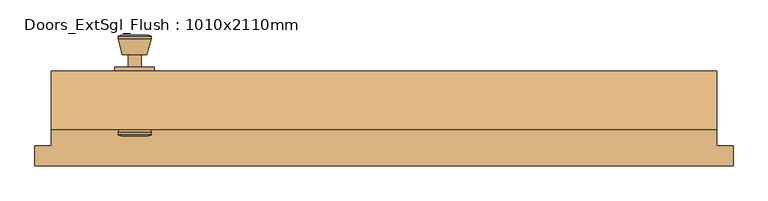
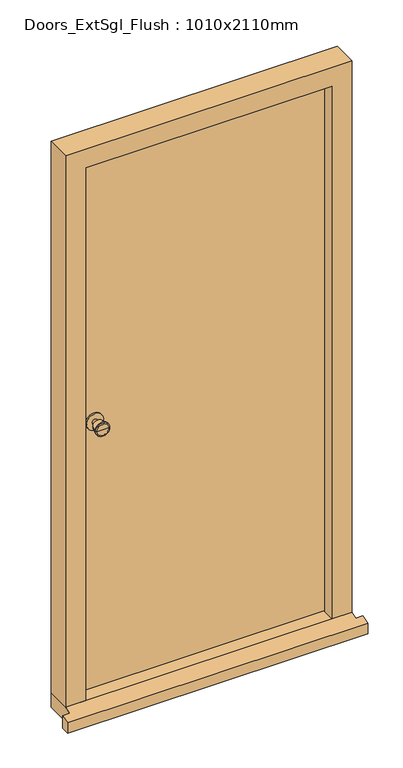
"""IFC4 building model written with IfcOpenShell, lengths in millimetres: door geometry, Doors_ExtSgl_Flush : 1010x2110mm."""

from ifc_helpers import new_model, si_unit, point, frame, frame_2d, origin, place, context, project, spatial, polyline, circle_curve, trimmed, segment, composite_curve, outline, extrude, faceted_brep, source, transform, mapped, element, save
from ifc_brep_helpers import plane_surface, cylinder_surface, revolved_surface, advanced_brep


def doors_extsgl_flush_1010x2110mm_caf77e55(model_context):
    return source(origin(), model_context, "Body", "SolidModel", [
        advanced_brep(
        [(-378.5, -81.0, 1050.0), (-388.5, -81.0, 1050.0), (-368.5, -81.0, 1050.0), (-358.0241324, -32.0, 1050.0), (-398.9758676, -32.0, 1050.0), (-378.5, -32.0, 1050.0), (-353.5, -33.8278681, 1050.0), (-403.5, -33.8278681, 1050.0), (-353.5, -37.2915463, 1050.0), (-403.5, -37.2915463, 1050.0), (-359.863764, -62.0, 1050.0), (-397.136236, -62.0, 1050.0), (-368.5, -62.0, 1050.0), (-388.5, -62.0, 1050.0)],
        [
            (0, 1),
            (1, 2, circle_curve(frame((-378.5, -81.0, 1050.0), z_axis=(0.0, -1.0, 0.0), x_axis=(-1.0, 0.0, 0.0)), 10.0)),
            (2, 0),
            (2, 1, circle_curve(frame((-378.5, -81.0, 1050.0), z_axis=(0.0, -1.0, 0.0), x_axis=(-1.0, 0.0, 0.0)), 10.0)),
            (3, 4, circle_curve(frame((-378.5, -32.0, 1050.0), z_axis=(0.0, 1.0, 0.0), x_axis=(-1.0, 0.0, 0.0)), 20.4758676)),
            (4, 5),
            (5, 3),
            (4, 3, circle_curve(frame((-378.5, -32.0, 1050.0), z_axis=(0.0, 1.0, 0.0), x_axis=(-1.0, 0.0, 0.0)), 20.4758676)),
            (6, 7, circle_curve(frame((-378.5, -33.8278681, 1050.0), z_axis=(0.0, 1.0, 0.0), x_axis=(-1.0, 0.0, 0.0)), 25.0)),
            (7, 4),
            (3, 6),
            (7, 6, circle_curve(frame((-378.5, -33.8278681, 1050.0), z_axis=(0.0, 1.0, 0.0), x_axis=(-1.0, 0.0, 0.0)), 25.0)),
            (8, 9, circle_curve(frame((-378.5, -37.2915463, 1050.0), z_axis=(0.0, 1.0, 0.0), x_axis=(-1.0, 0.0, 0.0)), 25.0)),
            (9, 7),
            (6, 8),
            (9, 8, circle_curve(frame((-378.5, -37.2915463, 1050.0), z_axis=(0.0, 1.0, 0.0), x_axis=(-1.0, 0.0, 0.0)), 25.0)),
            (10, 11, circle_curve(frame((-378.5, -62.0, 1050.0), z_axis=(0.0, 1.0, 0.0), x_axis=(-1.0, 0.0, 0.0)), 18.636236)),
            (11, 9),
            (8, 10),
            (11, 10, circle_curve(frame((-378.5, -62.0, 1050.0), z_axis=(0.0, 1.0, 0.0), x_axis=(-1.0, 0.0, 0.0)), 18.636236)),
            (12, 13, circle_curve(frame((-378.5, -62.0, 1050.0), z_axis=(0.0, 1.0, 0.0), x_axis=(-1.0, 0.0, 0.0)), 10.0)),
            (13, 11),
            (10, 12),
            (13, 12, circle_curve(frame((-378.5, -62.0, 1050.0), z_axis=(0.0, 1.0, 0.0), x_axis=(-1.0, 0.0, 0.0)), 10.0)),
            (1, 13),
            (12, 2),
        ],
        [
            plane_surface(frame((-378.5, -81.0, 1050.0), z_axis=(0.0, -1.0, 0.0), x_axis=(-1.0, 0.0, 0.0))),
            plane_surface(frame((-378.5, -32.0, 1050.0), z_axis=(0.0, 1.0, 0.0), x_axis=(-1.0, 0.0, 0.0))),
            revolved_surface(polyline([(-398.9758676, -32.0, 1050.0), (-403.5, -33.8278681, 1050.0)]), (-378.5, -81.0, 1050.0), (0.0, -1.0, 0.0)),
            cylinder_surface(frame((-378.5, -81.0, 1050.0), z_axis=(0.0, -1.0, 0.0), x_axis=(-1.0, 0.0, 0.0)), 25.0),
            revolved_surface(polyline([(-403.5, -37.2915463, 1050.0), (-397.136236, -62.0, 1050.0)]), (-378.5, -81.0, 1050.0), (0.0, -1.0, 0.0)),
            plane_surface(frame((-378.5, -62.0, 1050.0), z_axis=(0.0, -1.0, 0.0), x_axis=(-1.0, 0.0, 0.0))),
            cylinder_surface(frame((-378.5, -81.0, 1050.0), z_axis=(0.0, -1.0, 0.0), x_axis=(-1.0, 0.0, 0.0)), 10.0),
        ],
        [
            (0, [[1, 2, 3]]),
            (0, [[-3, 4, -1]]),
            (1, [[5, 6, 7]]),
            (1, [[8, -7, -6]]),
            (2, [[9, 10, -5, 11]]),
            (2, [[12, -11, -8, -10]]),
            (3, [[13, 14, -9, 15]]),
            (3, [[16, -15, -12, -14]]),
            (4, [[17, 18, -13, 19]]),
            (4, [[20, -19, -16, -18]]),
            (5, [[21, 22, -17, 23]]),
            (5, [[24, -23, -20, -22]]),
            (6, [[-2, 25, -21, 26]]),
            (6, [[-4, -26, -24, -25]]),
        ],
    ),
        extrude(outline(composite_curve([segment(trimmed(circle_curve(frame_2d((1050.0, -378.5)), 30.0), [point((1050.0, -408.5))], [point((1050.0, -348.5))], False, "CARTESIAN"), True, "CONTINUOUS"), segment(trimmed(circle_curve(frame_2d((1050.0, -378.5)), 30.0), [point((1050.0, -348.5))], [point((1050.0, -408.5))], False, "CARTESIAN"), True, "CONTINUOUS")], self_intersect=False)), frame((0.0, -87.0, 0.0), z_axis=(0.0, 1.0, 0.0), x_axis=(0.0, 0.0, 1.0)), (0.0, 0.0, 1.0), 6.0),
        advanced_brep(
        [(-378.5, -137.0, 1050.0), (-368.5, -137.0, 1050.0), (-388.5, -137.0, 1050.0), (-358.0241324, -186.0, 1050.0), (-378.5, -186.0, 1050.0), (-398.9758676, -186.0, 1050.0), (-353.5, -184.1721319, 1050.0), (-403.5, -184.1721319, 1050.0), (-353.5, -180.7084537, 1050.0), (-403.5, -180.7084537, 1050.0), (-359.863764, -156.0, 1050.0), (-397.136236, -156.0, 1050.0), (-368.5, -156.0, 1050.0), (-388.5, -156.0, 1050.0)],
        [
            (0, 1),
            (1, 2, circle_curve(frame((-378.5, -137.0, 1050.0), z_axis=(0.0, 1.0, 0.0), x_axis=(-1.0, 0.0, 0.0)), 10.0)),
            (2, 0),
            (2, 1, circle_curve(frame((-378.5, -137.0, 1050.0), z_axis=(0.0, 1.0, 0.0), x_axis=(-1.0, 0.0, 0.0)), 10.0)),
            (3, 4),
            (4, 5),
            (5, 3, circle_curve(frame((-378.5, -186.0, 1050.0), z_axis=(0.0, -1.0, 0.0), x_axis=(-1.0, 0.0, 0.0)), 20.4758676)),
            (3, 5, circle_curve(frame((-378.5, -186.0, 1050.0), z_axis=(0.0, -1.0, 0.0), x_axis=(-1.0, 0.0, 0.0)), 20.4758676)),
            (6, 3),
            (5, 7),
            (7, 6, circle_curve(frame((-378.5, -184.1721319, 1050.0), z_axis=(0.0, -1.0, 0.0), x_axis=(-1.0, 0.0, 0.0)), 25.0)),
            (6, 7, circle_curve(frame((-378.5, -184.1721319, 1050.0), z_axis=(0.0, -1.0, 0.0), x_axis=(-1.0, 0.0, 0.0)), 25.0)),
            (8, 6),
            (7, 9),
            (9, 8, circle_curve(frame((-378.5, -180.7084537, 1050.0), z_axis=(0.0, -1.0, 0.0), x_axis=(-1.0, 0.0, 0.0)), 25.0)),
            (8, 9, circle_curve(frame((-378.5, -180.7084537, 1050.0), z_axis=(0.0, -1.0, 0.0), x_axis=(-1.0, 0.0, 0.0)), 25.0)),
            (10, 8),
            (9, 11),
            (11, 10, circle_curve(frame((-378.5, -156.0, 1050.0), z_axis=(0.0, -1.0, 0.0), x_axis=(-1.0, 0.0, 0.0)), 18.636236)),
            (10, 11, circle_curve(frame((-378.5, -156.0, 1050.0), z_axis=(0.0, -1.0, 0.0), x_axis=(-1.0, 0.0, 0.0)), 18.636236)),
            (12, 10),
            (11, 13),
            (13, 12, circle_curve(frame((-378.5, -156.0, 1050.0), z_axis=(0.0, -1.0, 0.0), x_axis=(-1.0, 0.0, 0.0)), 10.0)),
            (12, 13, circle_curve(frame((-378.5, -156.0, 1050.0), z_axis=(0.0, -1.0, 0.0), x_axis=(-1.0, 0.0, 0.0)), 10.0)),
            (1, 12),
            (13, 2),
        ],
        [
            plane_surface(frame((-378.5, -137.0, 1050.0), z_axis=(0.0, 1.0, 0.0), x_axis=(-1.0, 0.0, 0.0))),
            plane_surface(frame((-378.5, -186.0, 1050.0), z_axis=(0.0, -1.0, 0.0), x_axis=(-1.0, 0.0, 0.0))),
            revolved_surface(polyline([(-398.9758676, -186.0, 1050.0), (-403.5, -184.1721319, 1050.0)]), (-378.5, -137.0, 1050.0), (0.0, 1.0, 0.0)),
            cylinder_surface(frame((-378.5, -137.0, 1050.0), z_axis=(0.0, 1.0, 0.0), x_axis=(-1.0, 0.0, 0.0)), 25.0),
            revolved_surface(polyline([(-403.5, -180.7084537, 1050.0), (-397.136236, -156.0, 1050.0)]), (-378.5, -137.0, 1050.0), (0.0, 1.0, 0.0)),
            plane_surface(frame((-378.5, -156.0, 1050.0), z_axis=(0.0, 1.0, 0.0), x_axis=(-1.0, 0.0, 0.0))),
            cylinder_surface(frame((-378.5, -137.0, 1050.0), z_axis=(0.0, 1.0, 0.0), x_axis=(-1.0, 0.0, 0.0)), 10.0),
        ],
        [
            (0, [[1, 2, 3]]),
            (0, [[-3, 4, -1]]),
            (1, [[5, 6, 7]]),
            (1, [[-6, -5, 8]]),
            (2, [[9, -7, 10, 11]]),
            (2, [[-10, -8, -9, 12]]),
            (3, [[13, -11, 14, 15]]),
            (3, [[-14, -12, -13, 16]]),
            (4, [[17, -15, 18, 19]]),
            (4, [[-18, -16, -17, 20]]),
            (5, [[21, -19, 22, 23]]),
            (5, [[-22, -20, -21, 24]]),
            (6, [[25, -23, 26, -2]]),
            (6, [[-26, -24, -25, -4]]),
        ],
    ),
        extrude(outline(composite_curve([segment(trimmed(circle_curve(frame_2d((1050.0, -378.5)), 30.0), [point((1050.0, -408.5))], [point((1050.0, -348.5))], False, "CARTESIAN"), True, "CONTINUOUS"), segment(trimmed(circle_curve(frame_2d((1050.0, -378.5)), 30.0), [point((1050.0, -348.5))], [point((1050.0, -408.5))], False, "CARTESIAN"), True, "CONTINUOUS")], self_intersect=False)), frame((0.0, -137.0, 0.0), z_axis=(0.0, 1.0, 0.0), x_axis=(0.0, 0.0, 1.0)), (0.0, 0.0, 1.0), 6.0),
        faceted_brep([(434.5, -176.0, 54.5), (434.5, -134.0, 54.5), (456.5, -134.0, 54.5), (456.5, -87.0, 54.5), (505.0, -87.0, 54.5), (505.0, -176.0, 54.5), (505.0, -176.0, 2110.0), (-505.0, -176.0, 2110.0), (-505.0, -176.0, 54.5), (-434.5, -176.0, 54.5), (-434.5, -176.0, 2039.5), (434.5, -176.0, 2039.5), (505.0, -87.0, 2110.0), (456.5, -87.0, 2061.5), (-456.5, -87.0, 2061.5), (-456.5, -87.0, 54.5), (-505.0, -87.0, 54.5), (-505.0, -87.0, 2110.0), (456.5, -134.0, 2061.5), (434.5, -134.0, 2039.5), (-434.5, -134.0, 2039.5), (-434.5, -134.0, 54.5), (-456.5, -134.0, 54.5), (-456.5, -134.0, 2061.5)], [[[0, 1, 2, 3, 4, 5]], [[5, 6, 7, 8, 9, 10, 11, 0]], [[4, 12, 6, 5]], [[3, 13, 14, 15, 16, 17, 12, 4]], [[2, 18, 13, 3]], [[1, 19, 20, 21, 22, 23, 18, 2]], [[0, 11, 19, 1]], [[10, 9, 21, 20]], [[9, 8, 16, 15, 22, 21]], [[17, 16, 8, 7]], [[23, 22, 15, 14]], [[12, 17, 7, 6]], [[18, 23, 14, 13]], [[11, 10, 20, 19]]]),
        faceted_brep([(530.0, -231.0, 0.0), (530.0, -201.0, 0.0), (530.0, -201.0, 47.2703282), (530.0, -231.0, 38.5947221), (-530.0, -231.0, 38.5947221), (-530.0, -201.0, 47.2703282), (-530.0, -201.0, 0.0), (-530.0, -231.0, 0.0), (-505.0, -201.0, 0.0), (-505.0, -87.0, 0.0), (505.0, -87.0, 0.0), (505.0, -201.0, 0.0), (505.0, -201.0, 47.2703282), (505.0, -176.0, 54.5), (-505.0, -176.0, 54.5), (-505.0, -201.0, 47.2703282), (505.0, -87.0, 54.5), (-505.0, -87.0, 54.5)], [[[0, 1, 2, 3]], [[4, 5, 6, 7]], [[7, 6, 8, 9, 10, 11, 1, 0]], [[3, 4, 7, 0]], [[3, 2, 12, 13, 14, 15, 5, 4]], [[14, 13, 16, 17]], [[17, 16, 10, 9]], [[15, 14, 17, 9, 8]], [[8, 6, 5, 15]], [[11, 10, 16, 13, 12]], [[12, 2, 1, 11]]]),
        extrude(outline(polyline([(453.5, -87.0), (453.5, -131.0), (-454.4250294, -131.0), (-454.4250294, -87.0), (453.5, -87.0)])), frame((0.0, 0.0, 58.5), z_axis=(0.0, 0.0, 1.0), x_axis=(1.0, 0.0, 0.0)), (0.0, 0.0, 1.0), 2000.0),
    ])


if __name__ == "__main__":
    model = new_model("IFC4")
    model_context = context("Model", 3, world=origin())
    ifc_project = project(units=[si_unit("LENGTHUNIT", "METRE", prefix="MILLI")], contexts=[model_context])
    site = spatial("IfcSite", under=ifc_project)
    building = spatial("IfcBuilding", under=site)
    placement = place(None, origin())
    doors_extsgl_flush_1010x2110mm_shape = doors_extsgl_flush_1010x2110mm_caf77e55(model_context)
    element("IfcDoor", 1, ObjectType="Doors_ExtSgl_Flush : 1010x2110mm", at=placement, inside=building, context=model_context, shape_type="MappedRepresentation", body=[
        mapped(doors_extsgl_flush_1010x2110mm_shape, transform((0.0, 0.0, 0.0), x_axis=(1.0, 0.0, 0.0), y_axis=(0.0, 1.0, 0.0), z_axis=(0.0, 0.0, 1.0))),
    ])
    save(model, "model.ifc")
